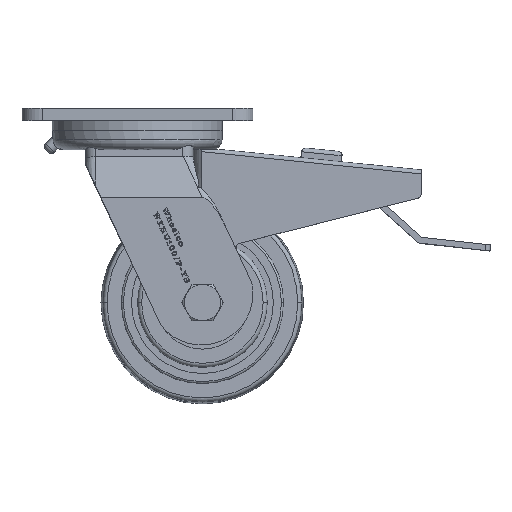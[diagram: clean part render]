
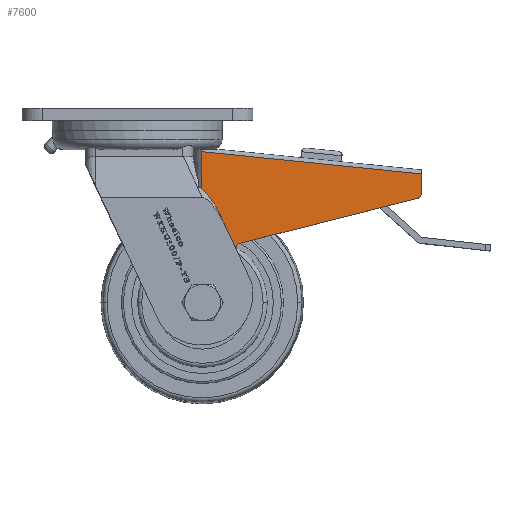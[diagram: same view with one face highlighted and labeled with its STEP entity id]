
A CAD part, top view. The second image highlights one B-rep face of the part: STEP entity #7600.
In plain terms, the highlighted planar face has unit normal (0.003, 0, 1) as drawn and (-1, 0, 0) by its records, which use the part's own axes.
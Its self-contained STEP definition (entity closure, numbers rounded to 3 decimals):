
#2112 = CARTESIAN_POINT ( 'NONE',  ( -37.5, 72.912, -18.559 ) ) ;
#2129 = LINE ( 'NONE', #22700, #21562 ) ;
#2333 = EDGE_CURVE ( 'NONE', #2551, #33372, #2503, .T. ) ;
#2473 = DIRECTION ( 'NONE',  ( 0., 0.906, -0.423 ) ) ;
#2498 = CARTESIAN_POINT ( 'NONE',  ( -37.5, 30.51, -140. ) ) ;
#2503 =( BOUNDED_CURVE ( )  B_SPLINE_CURVE ( 3, ( #25847, #13150, #23643, #18222 ),
 .UNSPECIFIED., .F., .F. ) 
 B_SPLINE_CURVE_WITH_KNOTS ( ( 4, 4 ),
 ( 3.548, 4.712 ),
 .UNSPECIFIED. ) 
 CURVE ( )  GEOMETRIC_REPRESENTATION_ITEM ( )  RATIONAL_B_SPLINE_CURVE ( ( 1., 0.89, 0.89, 1. ) ) 
 REPRESENTATION_ITEM ( '' )  );
#2551 = VERTEX_POINT ( 'NONE', #21940 ) ;
#2740 = CARTESIAN_POINT ( 'NONE',  ( -37.5, 66.843, -50.51 ) ) ;
#3522 = VECTOR ( 'NONE', #11477, 1000. ) ;
#3809 = DIRECTION ( 'NONE',  ( 0., -1., 0. ) ) ;
#3859 = CARTESIAN_POINT ( 'NONE',  ( -37.5, 40.445, -140. ) ) ;
#4611 = EDGE_CURVE ( 'NONE', #25666, #14990, #21757, .T. ) ;
#4959 = DIRECTION ( 'NONE',  ( -1., 0., 0. ) ) ;
#5318 = AXIS2_PLACEMENT_3D ( 'NONE', #32751, #30222, #11651 ) ;
#6007 = ORIENTED_EDGE ( 'NONE', *, *, #2333, .T. ) ;
#7386 = ORIENTED_EDGE ( 'NONE', *, *, #9181, .T. ) ;
#7600 = ADVANCED_FACE ( 'NONE', ( #17568 ), #19610, .T. ) ;
#7765 = ORIENTED_EDGE ( 'NONE', *, *, #27518, .F. ) ;
#9181 = EDGE_CURVE ( 'NONE', #27565, #32920, #11596, .T. ) ;
#9375 = AXIS2_PLACEMENT_3D ( 'NONE', #2740, #20106, #28391 ) ;
#10215 = LINE ( 'NONE', #14742, #27394 ) ;
#10361 = EDGE_CURVE ( 'NONE', #10598, #25666, #23065, .T. ) ;
#10598 = VERTEX_POINT ( 'NONE', #16328 ) ;
#11113 = EDGE_CURVE ( 'NONE', #33372, #10598, #10215, .T. ) ;
#11477 = DIRECTION ( 'NONE',  ( 0., -0.101, 0.995 ) ) ;
#11596 = CIRCLE ( 'NONE', #22377, 2. ) ;
#11642 = ORIENTED_EDGE ( 'NONE', *, *, #10361, .T. ) ;
#11651 = DIRECTION ( 'NONE',  ( 0., 0., 1. ) ) ;
#11846 = DIRECTION ( 'NONE',  ( -1., 0., 0. ) ) ;
#12009 = CARTESIAN_POINT ( 'NONE',  ( -37.5, 84., -140. ) ) ;
#12501 = DIRECTION ( 'NONE',  ( 0., 0., 1. ) ) ;
#13150 = CARTESIAN_POINT ( 'NONE',  ( -37.5, 39.711, -34.401 ) ) ;
#14002 = CARTESIAN_POINT ( 'NONE',  ( -37.5, 20.49, -41.174 ) ) ;
#14742 = CARTESIAN_POINT ( 'NONE',  ( -37.5, -6.563, -14.074 ) ) ;
#14990 = VERTEX_POINT ( 'NONE', #24326 ) ;
#15015 = EDGE_CURVE ( 'NONE', #18406, #31894, #24660, .T. ) ;
#15529 = CARTESIAN_POINT ( 'NONE',  ( -37.5, 40.445, -138. ) ) ;
#16257 = LINE ( 'NONE', #21354, #19178 ) ;
#16328 = CARTESIAN_POINT ( 'NONE',  ( -37.5, 67.688, -48.697 ) ) ;
#17568 = FACE_OUTER_BOUND ( 'NONE', #22464, .T. ) ;
#18222 = CARTESIAN_POINT ( 'NONE',  ( -37.5, 52.287, -41.516 ) ) ;
#18406 = VERTEX_POINT ( 'NONE', #2498 ) ;
#18647 = AXIS2_PLACEMENT_3D ( 'NONE', #12009, #11846, #22324 ) ;
#19178 = VECTOR ( 'NONE', #3809, 1000. ) ;
#19315 = CARTESIAN_POINT ( 'NONE',  ( -37.5, 52.287, -41.516 ) ) ;
#19610 = PLANE ( 'NONE',  #18647 ) ;
#20106 = DIRECTION ( 'NONE',  ( 1., 0., 0. ) ) ;
#20205 = ORIENTED_EDGE ( 'NONE', *, *, #30268, .F. ) ;
#21354 = CARTESIAN_POINT ( 'NONE',  ( -37.5, 0., -31.376 ) ) ;
#21562 = VECTOR ( 'NONE', #32991, 1000. ) ;
#21757 = CIRCLE ( 'NONE', #9375, 2. ) ;
#21940 = CARTESIAN_POINT ( 'NONE',  ( -37.5, 37.699, -31.376 ) ) ;
#22324 = DIRECTION ( 'NONE',  ( 0., 0., 1. ) ) ;
#22377 = AXIS2_PLACEMENT_3D ( 'NONE', #15529, #4959, #12501 ) ;
#22464 = EDGE_LOOP ( 'NONE', ( #7765, #7386, #23389, #31630, #20205, #6007, #22743, #11642, #29672 ) ) ;
#22519 = CARTESIAN_POINT ( 'NONE',  ( -37.5, 42.384, -138.493 ) ) ;
#22700 = CARTESIAN_POINT ( 'NONE',  ( -37.5, 84., -140. ) ) ;
#22743 = ORIENTED_EDGE ( 'NONE', *, *, #11113, .T. ) ;
#23065 = CIRCLE ( 'NONE', #5318, 2. ) ;
#23389 = ORIENTED_EDGE ( 'NONE', *, *, #23490, .T. ) ;
#23490 = EDGE_CURVE ( 'NONE', #32920, #18406, #2129, .T. ) ;
#23643 = CARTESIAN_POINT ( 'NONE',  ( -37.5, 45.174, -38.198 ) ) ;
#24326 = CARTESIAN_POINT ( 'NONE',  ( -37.5, 64.904, -50.016 ) ) ;
#24660 = LINE ( 'NONE', #14002, #3522 ) ;
#25666 = VERTEX_POINT ( 'NONE', #32057 ) ;
#25847 = CARTESIAN_POINT ( 'NONE',  ( -37.5, 37.699, -31.376 ) ) ;
#27394 = VECTOR ( 'NONE', #2473, 1000. ) ;
#27518 = EDGE_CURVE ( 'NONE', #27565, #14990, #32814, .T. ) ;
#27565 = VERTEX_POINT ( 'NONE', #22519 ) ;
#28391 = DIRECTION ( 'NONE',  ( 0., 0., 1. ) ) ;
#28806 = VECTOR ( 'NONE', #30627, 1000. ) ;
#28846 = CARTESIAN_POINT ( 'NONE',  ( -37.5, 19.496, -31.376 ) ) ;
#29672 = ORIENTED_EDGE ( 'NONE', *, *, #4611, .T. ) ;
#30222 = DIRECTION ( 'NONE',  ( 1., 0., 0. ) ) ;
#30268 = EDGE_CURVE ( 'NONE', #2551, #31894, #16257, .T. ) ;
#30627 = DIRECTION ( 'NONE',  ( 0., 0.247, 0.969 ) ) ;
#31630 = ORIENTED_EDGE ( 'NONE', *, *, #15015, .T. ) ;
#31894 = VERTEX_POINT ( 'NONE', #28846 ) ;
#32057 = CARTESIAN_POINT ( 'NONE',  ( -37.5, 66.843, -48.51 ) ) ;
#32751 = CARTESIAN_POINT ( 'NONE',  ( -37.5, 66.843, -50.51 ) ) ;
#32814 = LINE ( 'NONE', #2112, #28806 ) ;
#32920 = VERTEX_POINT ( 'NONE', #3859 ) ;
#32991 = DIRECTION ( 'NONE',  ( 0., -1., 0. ) ) ;
#33372 = VERTEX_POINT ( 'NONE', #19315 ) ;
